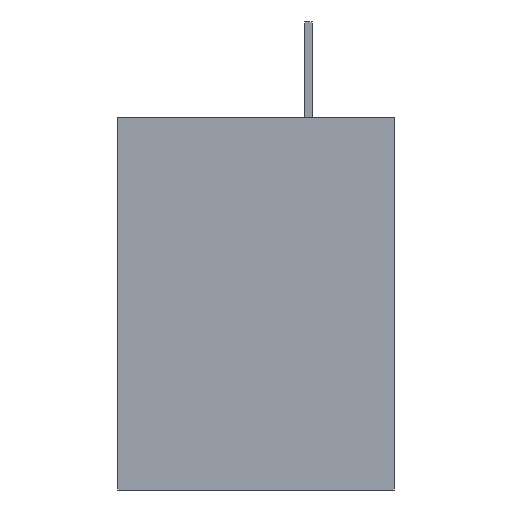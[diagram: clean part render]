
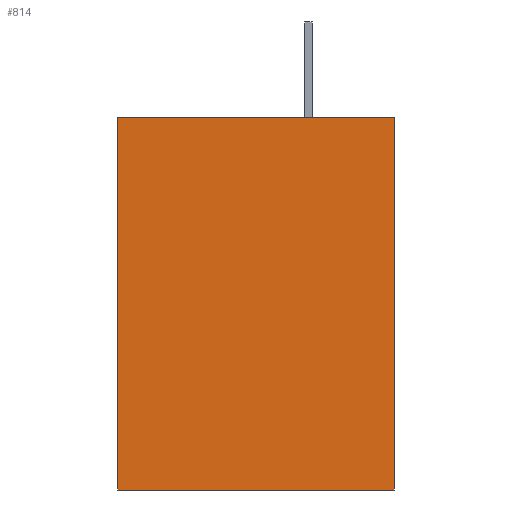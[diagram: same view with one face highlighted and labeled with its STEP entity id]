
A CAD part, left-side view. The second image highlights one B-rep face of the part: STEP entity #814.
In plain terms, the highlighted planar face has unit normal (-1, 0, 0).
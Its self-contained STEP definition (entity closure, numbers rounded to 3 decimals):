
#60=FACE_OUTER_BOUND($,#112,.T.);
#112=EDGE_LOOP($,(#701,#702,#703,#704));
#211=LINE($,#1267,#319);
#217=LINE($,#1278,#325);
#218=LINE($,#1280,#326);
#219=LINE($,#1281,#327);
#319=VECTOR($,#1041,9.25);
#325=VECTOR($,#1051,12.45);
#326=VECTOR($,#1052,9.25);
#327=VECTOR($,#1053,12.45);
#397=VERTEX_POINT($,#1265);
#398=VERTEX_POINT($,#1266);
#401=VERTEX_POINT($,#1277);
#402=VERTEX_POINT($,#1279);
#499=EDGE_CURVE($,#397,#398,#211,.T.);
#505=EDGE_CURVE($,#401,#398,#217,.T.);
#506=EDGE_CURVE($,#401,#402,#218,.T.);
#507=EDGE_CURVE($,#402,#397,#219,.T.);
#701=ORIENTED_EDGE($,*,*,#505,.F.);
#702=ORIENTED_EDGE($,*,*,#506,.T.);
#703=ORIENTED_EDGE($,*,*,#507,.T.);
#704=ORIENTED_EDGE($,*,*,#499,.T.);
#769=PLANE($,#862);
#814=ADVANCED_FACE($,(#60),#769,.T.);
#862=AXIS2_PLACEMENT_3D($,#1276,#1049,#1050);
#1041=DIRECTION($,(0.,1.,0.));
#1049=DIRECTION('center_axis',(-1.,0.,0.));
#1050=DIRECTION('ref_axis',(0.,0.,1.));
#1051=DIRECTION($,(0.,0.,1.));
#1052=DIRECTION($,(0.,-1.,0.));
#1053=DIRECTION($,(0.,0.,1.));
#1265=CARTESIAN_POINT('',(-12.975,-4.625,12.45));
#1266=CARTESIAN_POINT('',(-12.975,4.625,12.45));
#1267=CARTESIAN_POINT($,(-12.975,4.625,12.45));
#1276=CARTESIAN_POINT('Origin',(-12.975,-4.625,0.));
#1277=CARTESIAN_POINT('',(-12.975,4.625,0.));
#1278=CARTESIAN_POINT($,(-12.975,4.625,0.));
#1279=CARTESIAN_POINT('',(-12.975,-4.625,0.));
#1280=CARTESIAN_POINT($,(-12.975,4.625,0.));
#1281=CARTESIAN_POINT($,(-12.975,-4.625,0.));
